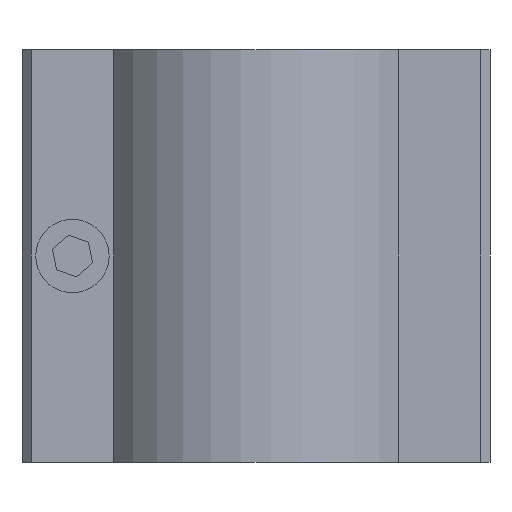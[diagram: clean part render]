
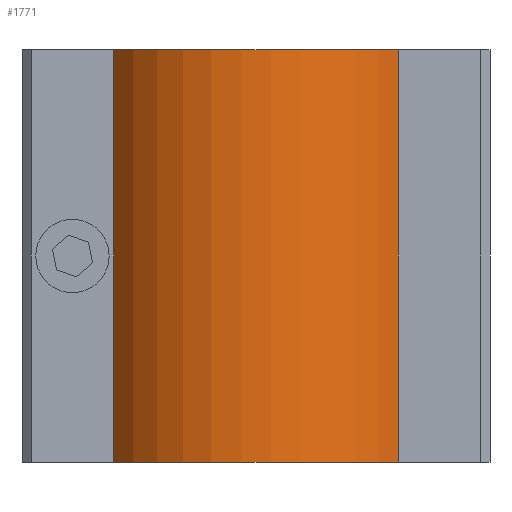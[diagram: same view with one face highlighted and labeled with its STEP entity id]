
A CAD part, front view. The second image highlights one B-rep face of the part: STEP entity #1771.
In plain terms, the highlighted cylindrical face has radius 38 mm (diameter 76 mm), a partial arc.
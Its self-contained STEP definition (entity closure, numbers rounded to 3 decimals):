
#1098=CARTESIAN_POINT('',(-31.693,-17.802,85.0));
#1099=VERTEX_POINT('',#1098);
#1106=CARTESIAN_POINT('',(30.275,-17.802,85.0));
#1107=VERTEX_POINT('',#1106);
#1108=CARTESIAN_POINT('',(-0.709,4.198,85.0));
#1109=DIRECTION('',(0.0,0.0,-1.));
#1110=DIRECTION('',(0.815,0.579,0.0));
#1111=AXIS2_PLACEMENT_3D('',#1108,#1109,#1110);
#1112=CIRCLE('',#1111,38.0);
#1113=EDGE_CURVE('',#1107,#1099,#1112,.T.);
#1666=CARTESIAN_POINT('',(30.275,-17.802,-5.0));
#1667=VERTEX_POINT('',#1666);
#1674=CARTESIAN_POINT('',(-31.693,-17.802,-5.0));
#1675=VERTEX_POINT('',#1674);
#1676=CARTESIAN_POINT('',(-0.709,4.198,-5.0));
#1677=DIRECTION('',(0.0,0.0,1.));
#1678=DIRECTION('',(0.815,0.579,0.0));
#1679=AXIS2_PLACEMENT_3D('',#1676,#1677,#1678);
#1680=CIRCLE('',#1679,38.0);
#1681=EDGE_CURVE('',#1675,#1667,#1680,.T.);
#1744=CARTESIAN_POINT('',(30.275,-17.802,85.0));
#1745=DIRECTION('',(0.0,0.0,-1.0));
#1746=VECTOR('',#1745,90.0);
#1747=LINE('',#1744,#1746);
#1748=EDGE_CURVE('',#1107,#1667,#1747,.T.);
#1755=CARTESIAN_POINT('',(-0.709,4.198,40.0));
#1756=DIRECTION('',(0.0,0.0,1.0));
#1757=DIRECTION('',(0.815,0.579,0.0));
#1758=AXIS2_PLACEMENT_3D('',#1755,#1756,#1757);
#1759=CYLINDRICAL_SURFACE('',#1758,38.);
#1760=ORIENTED_EDGE('',*,*,#1113,.T.);
#1761=CARTESIAN_POINT('',(-31.693,-17.802,85.0));
#1762=DIRECTION('',(0.0,0.0,-1.0));
#1763=VECTOR('',#1762,90.0);
#1764=LINE('',#1761,#1763);
#1765=EDGE_CURVE('',#1099,#1675,#1764,.T.);
#1766=ORIENTED_EDGE('',*,*,#1765,.T.);
#1767=ORIENTED_EDGE('',*,*,#1681,.T.);
#1768=ORIENTED_EDGE('',*,*,#1748,.F.);
#1769=EDGE_LOOP('',(#1760,#1766,#1767,#1768));
#1770=FACE_OUTER_BOUND('',#1769,.T.);
#1771=ADVANCED_FACE('',(#1770),#1759,.T.);
